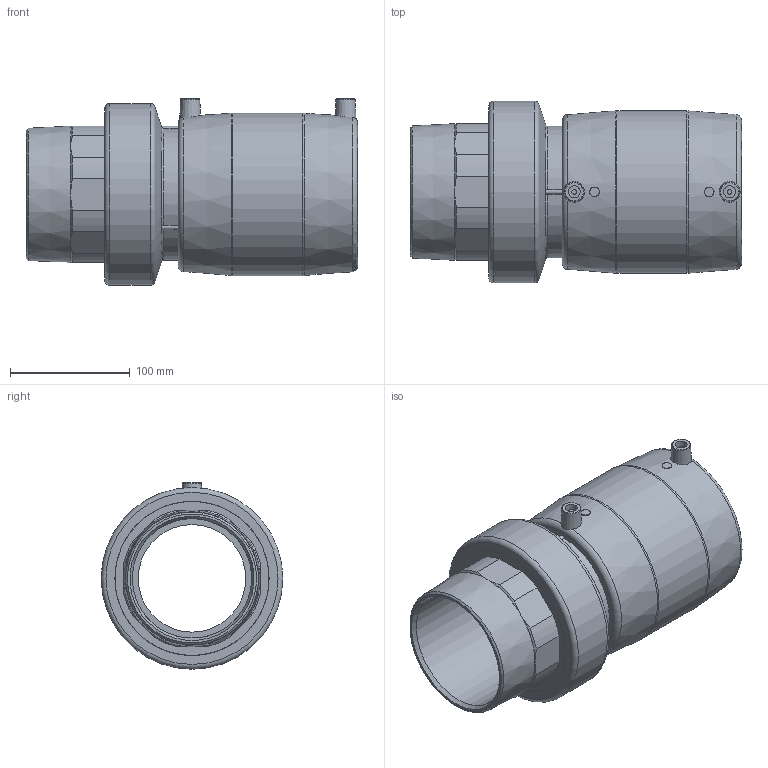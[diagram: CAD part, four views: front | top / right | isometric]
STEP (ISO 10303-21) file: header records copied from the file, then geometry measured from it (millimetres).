
FILE_DESCRIPTION(/* description */ ('Unknown'),/* implementation_level */ '2;1');
FILE_NAME(/* name */ 'MTMP110C',/* time_stamp */ '2021-03-02T10:30:04+01:00',/* author */ ('Unknown'),/* organization */ ('Unknown'),/* preprocessor_version */ 'ST-DEVELOPER v16.7',/* originating_system */ 'Solid Edge',/* authorisation */ 'Unknown');
FILE_SCHEMA (('AUTOMOTIVE_DESIGN {1 0 10303 214 3 1 1}'));
Length unit declared in the file: millimetre
Products named in the file (5): MTMP110C; MP110C; RTOMP110C; Parte PE 110; IOM110C
Assembly tree (4 placements, depth 3):
  MTMP110C
    MP110C
    RTOMP110C
      Parte PE 110
      IOM110C
Bounding box: 277 x 152 x 156 mm (x, y, z)
Volume: 1618440 mm3; surface area: 349398.9 mm2
Topology: 3 solids, 3 shells, 233 faces, 571 edges, 362 vertices
Faces by surface type: plane 118, cylinder 58, cone 25, torus 17, bspline 15
Full cylindrical faces by diameter (mm): 4 x2, 8 x2, 10 x2, 90 x1, 100 x4, 106 x2, 110 x2, 119 x2, 123.4 x2, 129 x8, 136 x1, 152 x1
Entity records: 7416 total; most frequent: CARTESIAN_POINT 1474, DIRECTION 1116, ORIENTED_EDGE 986, EDGE_CURVE 493, AXIS2_PLACEMENT_3D 452, VERTEX_POINT 339, EDGE_LOOP 312, FACE_BOUND 312
